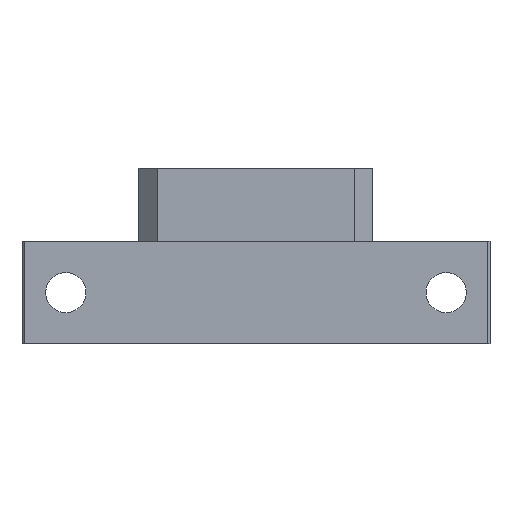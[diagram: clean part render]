
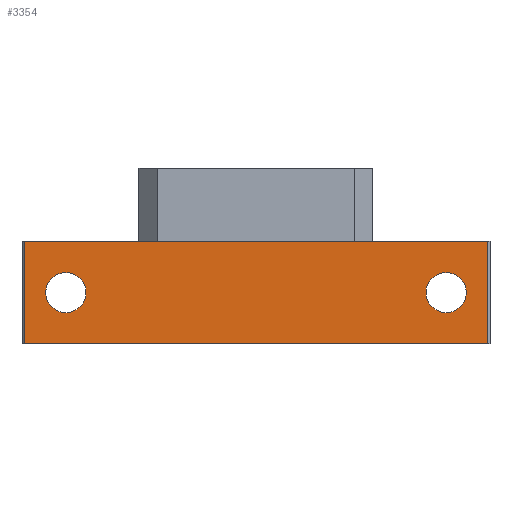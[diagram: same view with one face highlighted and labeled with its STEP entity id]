
A CAD part, front view. The second image highlights one B-rep face of the part: STEP entity #3354.
In plain terms, the highlighted planar face has unit normal (0, -1, 0).
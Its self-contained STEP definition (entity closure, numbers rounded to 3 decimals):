
#95 = DIRECTION ( 'NONE',  ( 0., 1., 0. ) ) ;
#120 = VECTOR ( 'NONE', #4880, 1000. ) ;
#150 = FACE_BOUND ( 'NONE', #3329, .T. ) ;
#204 = DIRECTION ( 'NONE',  ( 1., 0., 0. ) ) ;
#318 = CARTESIAN_POINT ( 'NONE',  ( -26., -21., 9.75 ) ) ;
#330 = ORIENTED_EDGE ( 'NONE', *, *, #5049, .T. ) ;
#391 = ORIENTED_EDGE ( 'NONE', *, *, #731, .T. ) ;
#508 = AXIS2_PLACEMENT_3D ( 'NONE', #644, #2756, #2368 ) ;
#611 = AXIS2_PLACEMENT_3D ( 'NONE', #4626, #95, #4179 ) ;
#644 = CARTESIAN_POINT ( 'NONE',  ( 26., -21., 7. ) ) ;
#655 = CARTESIAN_POINT ( 'NONE',  ( -31.7, -21., 14. ) ) ;
#731 = EDGE_CURVE ( 'NONE', #3534, #852, #2783, .T. ) ;
#751 = EDGE_CURVE ( 'NONE', #952, #4531, #1664, .T. ) ;
#852 = VERTEX_POINT ( 'NONE', #1341 ) ;
#952 = VERTEX_POINT ( 'NONE', #1900 ) ;
#1008 = VERTEX_POINT ( 'NONE', #318 ) ;
#1015 = AXIS2_PLACEMENT_3D ( 'NONE', #1457, #1934, #4651 ) ;
#1046 = FACE_OUTER_BOUND ( 'NONE', #1424, .T. ) ;
#1125 = DIRECTION ( 'NONE',  ( 0., 0., 1. ) ) ;
#1341 = CARTESIAN_POINT ( 'NONE',  ( 26., -21., 4.25 ) ) ;
#1348 = EDGE_LOOP ( 'NONE', ( #391, #330 ) ) ;
#1356 = VECTOR ( 'NONE', #1491, 1000. ) ;
#1387 = EDGE_CURVE ( 'NONE', #2567, #3117, #2640, .T. ) ;
#1424 = EDGE_LOOP ( 'NONE', ( #3622, #3523, #3424, #3601 ) ) ;
#1435 = CARTESIAN_POINT ( 'NONE',  ( -31.7, -21., 14. ) ) ;
#1457 = CARTESIAN_POINT ( 'NONE',  ( -26., -21., 7. ) ) ;
#1470 = EDGE_CURVE ( 'NONE', #3838, #1008, #4170, .T. ) ;
#1491 = DIRECTION ( 'NONE',  ( 0., 0., -1. ) ) ;
#1664 = LINE ( 'NONE', #4475, #120 ) ;
#1806 = DIRECTION ( 'NONE',  ( 0., 0., 1. ) ) ;
#1807 = CARTESIAN_POINT ( 'NONE',  ( 31.7, -21., 0. ) ) ;
#1874 = VECTOR ( 'NONE', #204, 1000. ) ;
#1889 = EDGE_CURVE ( 'NONE', #1008, #3838, #3306, .T. ) ;
#1892 = LINE ( 'NONE', #5099, #1356 ) ;
#1897 = CARTESIAN_POINT ( 'NONE',  ( 31.7, -21., 14. ) ) ;
#1900 = CARTESIAN_POINT ( 'NONE',  ( -31.7, -21., 0. ) ) ;
#1917 = CARTESIAN_POINT ( 'NONE',  ( -31.7, -21., 14. ) ) ;
#1934 = DIRECTION ( 'NONE',  ( 0., -1., 0. ) ) ;
#2152 = FACE_BOUND ( 'NONE', #1348, .T. ) ;
#2215 = DIRECTION ( 'NONE',  ( 0., 1., 0. ) ) ;
#2238 = DIRECTION ( 'NONE',  ( 0., 0., -1. ) ) ;
#2368 = DIRECTION ( 'NONE',  ( 0., 0., 1. ) ) ;
#2370 = ORIENTED_EDGE ( 'NONE', *, *, #1889, .F. ) ;
#2552 = PLANE ( 'NONE',  #4234 ) ;
#2567 = VERTEX_POINT ( 'NONE', #3714 ) ;
#2640 = LINE ( 'NONE', #1917, #1874 ) ;
#2756 = DIRECTION ( 'NONE',  ( 0., 1., 0. ) ) ;
#2774 = CARTESIAN_POINT ( 'NONE',  ( -26., -21., 4.25 ) ) ;
#2783 = CIRCLE ( 'NONE', #508, 2.75 ) ;
#3059 = CIRCLE ( 'NONE', #611, 2.75 ) ;
#3117 = VERTEX_POINT ( 'NONE', #1897 ) ;
#3145 = CARTESIAN_POINT ( 'NONE',  ( -26., -21., 7. ) ) ;
#3273 = EDGE_CURVE ( 'NONE', #2567, #952, #3811, .T. ) ;
#3306 = CIRCLE ( 'NONE', #1015, 2.75 ) ;
#3329 = EDGE_LOOP ( 'NONE', ( #2370, #4542 ) ) ;
#3354 = ADVANCED_FACE ( 'NONE', ( #150, #2152, #1046 ), #2552, .F. ) ;
#3424 = ORIENTED_EDGE ( 'NONE', *, *, #1387, .F. ) ;
#3523 = ORIENTED_EDGE ( 'NONE', *, *, #4672, .F. ) ;
#3534 = VERTEX_POINT ( 'NONE', #5229 ) ;
#3601 = ORIENTED_EDGE ( 'NONE', *, *, #3273, .T. ) ;
#3622 = ORIENTED_EDGE ( 'NONE', *, *, #751, .T. ) ;
#3714 = CARTESIAN_POINT ( 'NONE',  ( -31.7, -21., 14. ) ) ;
#3811 = LINE ( 'NONE', #1435, #5191 ) ;
#3838 = VERTEX_POINT ( 'NONE', #2774 ) ;
#4170 = CIRCLE ( 'NONE', #4862, 2.75 ) ;
#4179 = DIRECTION ( 'NONE',  ( 0., 0., 1. ) ) ;
#4234 = AXIS2_PLACEMENT_3D ( 'NONE', #655, #2215, #1806 ) ;
#4475 = CARTESIAN_POINT ( 'NONE',  ( -31.7, -21., 0. ) ) ;
#4531 = VERTEX_POINT ( 'NONE', #1807 ) ;
#4542 = ORIENTED_EDGE ( 'NONE', *, *, #1470, .F. ) ;
#4626 = CARTESIAN_POINT ( 'NONE',  ( 26., -21., 7. ) ) ;
#4651 = DIRECTION ( 'NONE',  ( 0., 0., 1. ) ) ;
#4672 = EDGE_CURVE ( 'NONE', #3117, #4531, #1892, .T. ) ;
#4784 = DIRECTION ( 'NONE',  ( 0., -1., 0. ) ) ;
#4862 = AXIS2_PLACEMENT_3D ( 'NONE', #3145, #4784, #1125 ) ;
#4880 = DIRECTION ( 'NONE',  ( 1., 0., 0. ) ) ;
#5049 = EDGE_CURVE ( 'NONE', #852, #3534, #3059, .T. ) ;
#5099 = CARTESIAN_POINT ( 'NONE',  ( 31.7, -21., 14. ) ) ;
#5191 = VECTOR ( 'NONE', #2238, 1000. ) ;
#5229 = CARTESIAN_POINT ( 'NONE',  ( 26., -21., 9.75 ) ) ;
